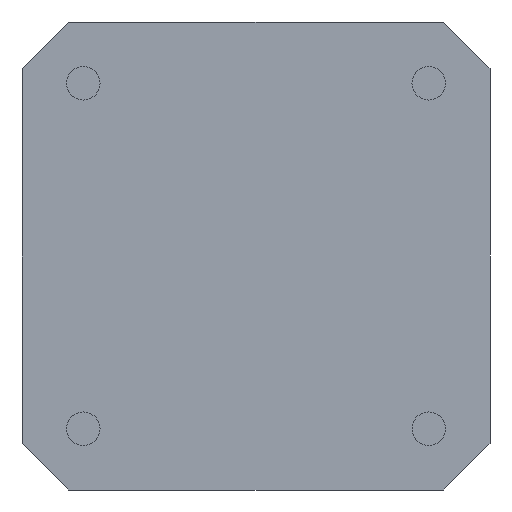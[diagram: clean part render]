
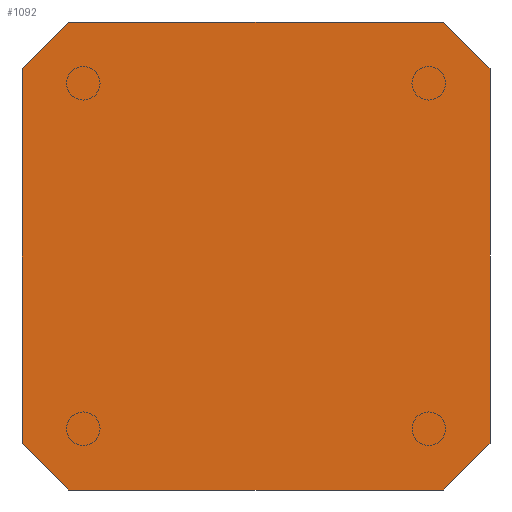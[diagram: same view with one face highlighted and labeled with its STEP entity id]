
A CAD part, front view. The second image highlights one B-rep face of the part: STEP entity #1092.
In plain terms, the highlighted planar face has unit normal (0, -1, 0).
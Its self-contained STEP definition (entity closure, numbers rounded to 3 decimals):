
#51 = VECTOR ( 'NONE', #1083, 1000. ) ;
#58 = ORIENTED_EDGE ( 'NONE', *, *, #916, .F. ) ;
#60 = EDGE_CURVE ( 'NONE', #797, #1282, #1262, .T. ) ;
#88 = CARTESIAN_POINT ( 'NONE',  ( 42., -37., -37.8 ) ) ;
#102 = FACE_OUTER_BOUND ( 'NONE', #1210, .T. ) ;
#104 = VECTOR ( 'NONE', #336, 1000. ) ;
#120 = DIRECTION ( 'NONE',  ( 0., -1., 0. ) ) ;
#156 = VECTOR ( 'NONE', #970, 1000. ) ;
#170 = ORIENTED_EDGE ( 'NONE', *, *, #949, .T. ) ;
#174 = ORIENTED_EDGE ( 'NONE', *, *, #1269, .T. ) ;
#185 = DIRECTION ( 'NONE',  ( 0., 0., -1. ) ) ;
#209 = DIRECTION ( 'NONE',  ( -1., 0., 0. ) ) ;
#247 = CARTESIAN_POINT ( 'NONE',  ( 0., -37., -37.8 ) ) ;
#256 = CARTESIAN_POINT ( 'NONE',  ( 42., -37., -4.2 ) ) ;
#258 = VERTEX_POINT ( 'NONE', #1043 ) ;
#303 = DIRECTION ( 'NONE',  ( 0.707, 0., 0.707 ) ) ;
#336 = DIRECTION ( 'NONE',  ( 0.707, 0., -0.707 ) ) ;
#339 = LINE ( 'NONE', #972, #51 ) ;
#343 = ORIENTED_EDGE ( 'NONE', *, *, #985, .F. ) ;
#366 = AXIS2_PLACEMENT_3D ( 'NONE', #662, #120, #889 ) ;
#421 = CARTESIAN_POINT ( 'NONE',  ( 4.2, -37., -42. ) ) ;
#439 = EDGE_CURVE ( 'NONE', #843, #569, #1030, .T. ) ;
#444 = VECTOR ( 'NONE', #209, 1000. ) ;
#445 = VECTOR ( 'NONE', #1284, 1000. ) ;
#569 = VERTEX_POINT ( 'NONE', #1186 ) ;
#610 = CARTESIAN_POINT ( 'NONE',  ( 37.8, -37., 0. ) ) ;
#662 = CARTESIAN_POINT ( 'NONE',  ( 0., -37., 0. ) ) ;
#728 = LINE ( 'NONE', #953, #445 ) ;
#745 = CARTESIAN_POINT ( 'NONE',  ( 37.8, -37., -42. ) ) ;
#761 = ORIENTED_EDGE ( 'NONE', *, *, #439, .T. ) ;
#769 = VECTOR ( 'NONE', #303, 1000. ) ;
#797 = VERTEX_POINT ( 'NONE', #247 ) ;
#810 = ORIENTED_EDGE ( 'NONE', *, *, #60, .T. ) ;
#840 = ORIENTED_EDGE ( 'NONE', *, *, #867, .F. ) ;
#843 = VERTEX_POINT ( 'NONE', #256 ) ;
#859 = CARTESIAN_POINT ( 'NONE',  ( 0., -37., -4.2 ) ) ;
#867 = EDGE_CURVE ( 'NONE', #843, #1268, #1130, .T. ) ;
#871 = CARTESIAN_POINT ( 'NONE',  ( 0., -37., -4.2 ) ) ;
#889 = DIRECTION ( 'NONE',  ( 0., 0., -1. ) ) ;
#916 = EDGE_CURVE ( 'NONE', #797, #1017, #728, .T. ) ;
#949 = EDGE_CURVE ( 'NONE', #1124, #1017, #1317, .T. ) ;
#950 = CARTESIAN_POINT ( 'NONE',  ( 42., -37., 0. ) ) ;
#953 = CARTESIAN_POINT ( 'NONE',  ( 0., -37., 0. ) ) ;
#970 = DIRECTION ( 'NONE',  ( -0.707, 0., -0.707 ) ) ;
#972 = CARTESIAN_POINT ( 'NONE',  ( 0., -37., 0. ) ) ;
#985 = EDGE_CURVE ( 'NONE', #1124, #569, #339, .T. ) ;
#1001 = ORIENTED_EDGE ( 'NONE', *, *, #1309, .F. ) ;
#1005 = CARTESIAN_POINT ( 'NONE',  ( 4.2, -37., 0. ) ) ;
#1017 = VERTEX_POINT ( 'NONE', #871 ) ;
#1027 = LINE ( 'NONE', #1090, #444 ) ;
#1030 = LINE ( 'NONE', #610, #1346 ) ;
#1043 = CARTESIAN_POINT ( 'NONE',  ( 37.8, -37., -42. ) ) ;
#1083 = DIRECTION ( 'NONE',  ( 1., 0., 0. ) ) ;
#1090 = CARTESIAN_POINT ( 'NONE',  ( 0., -37., -42. ) ) ;
#1092 = ADVANCED_FACE ( 'NONE', ( #102 ), #1215, .T. ) ;
#1112 = CARTESIAN_POINT ( 'NONE',  ( 4.2, -37., -42. ) ) ;
#1124 = VERTEX_POINT ( 'NONE', #1005 ) ;
#1130 = LINE ( 'NONE', #950, #1378 ) ;
#1186 = CARTESIAN_POINT ( 'NONE',  ( 37.8, -37., 0. ) ) ;
#1210 = EDGE_LOOP ( 'NONE', ( #174, #840, #761, #343, #170, #58, #810, #1001 ) ) ;
#1215 = PLANE ( 'NONE',  #366 ) ;
#1262 = LINE ( 'NONE', #1112, #104 ) ;
#1268 = VERTEX_POINT ( 'NONE', #88 ) ;
#1269 = EDGE_CURVE ( 'NONE', #258, #1268, #1342, .T. ) ;
#1282 = VERTEX_POINT ( 'NONE', #421 ) ;
#1284 = DIRECTION ( 'NONE',  ( 0., 0., 1. ) ) ;
#1309 = EDGE_CURVE ( 'NONE', #258, #1282, #1027, .T. ) ;
#1317 = LINE ( 'NONE', #859, #156 ) ;
#1342 = LINE ( 'NONE', #745, #769 ) ;
#1346 = VECTOR ( 'NONE', #1374, 1000. ) ;
#1374 = DIRECTION ( 'NONE',  ( -0.707, 0., 0.707 ) ) ;
#1378 = VECTOR ( 'NONE', #185, 1000. ) ;
